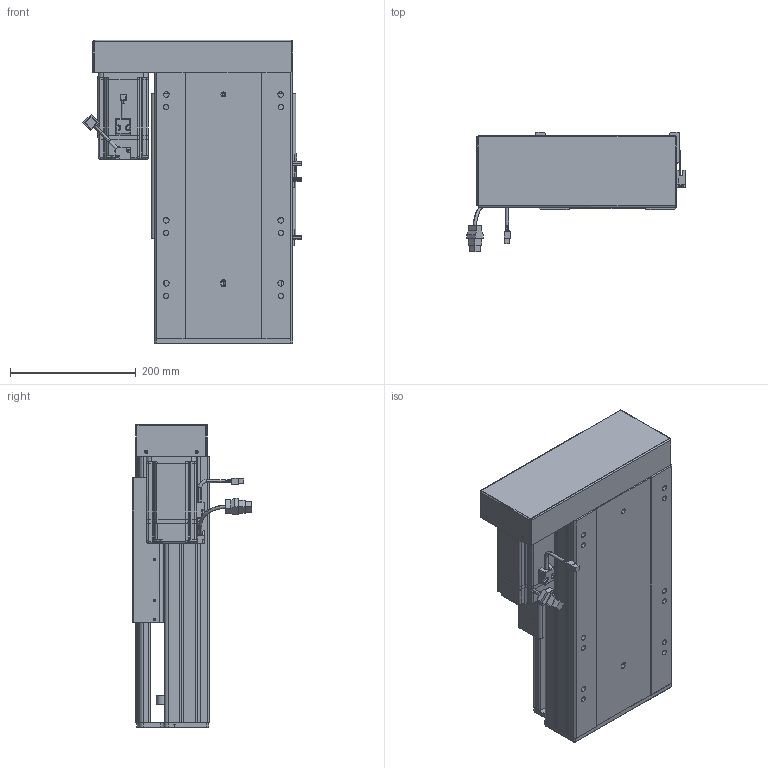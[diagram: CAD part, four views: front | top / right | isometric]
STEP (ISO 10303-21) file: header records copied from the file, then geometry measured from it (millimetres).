
FILE_DESCRIPTION (( 'STEP AP203' ), '1' );
FILE_NAME ('RY220-L2525-300-LK.SLDASM_100.step', '2022-07-04T01:46:12', ( '' ), ( '' ), 'SwSTEP 2.0', 'SolidWorks 2016', '' );
FILE_SCHEMA (( 'CONFIG_CONTROL_DESIGN' ));
Length unit declared in the file: millimetre
Products named in the file (12): 覜茼ん672; 滅袉蝶18-15; RY220-300-蛌殏奻裔啣_100; RY220綴裔啣; RY220蛌殏菁釱-300_100; 滅袉蝶18-10; RY220左右折电机安装板; RY220-L2525-300-LK.SLDASM_100; RY220酘衵殏萇儂欶; RY220-俋离672覜茼んえ; 怢湛750W_ECMA-CX0807ES; RY220半封闭25-32螺母铝滑块
Assembly tree (15 placements, depth 2):
  RY220-L2525-300-LK.SLDASM_100
    RY220蛌殏菁釱-300_100
    RY220-300-蛌殏奻裔啣_100
    怢湛750W_ECMA-CX0807ES
    滅袉蝶18-10  x2
    RY220-俋离672覜茼んえ
    覜茼ん672  x3
    RY220綴裔啣
    RY220半封闭25-32螺母铝滑块
    滅袉蝶18-15  x2
    RY220左右折电机安装板
    RY220酘衵殏萇儂欶
Bounding box: 347.44 x 189.27 x 482 mm (x, y, z)
Volume: 5735355.1 mm3; surface area: 1478824.6 mm2
Topology: 16 solids, 16 shells, 1963 faces, 5408 edges, 3457 vertices
Faces by surface type: plane 896, cylinder 843, cone 154, bspline 44, sphere 16, torus 10
Entity records: 64733 total; most frequent: CARTESIAN_POINT 19043, ORIENTED_EDGE 9536, DIRECTION 8788, EDGE_CURVE 4768, VERTEX_POINT 3113, AXIS2_PLACEMENT_3D 3029, VECTOR 2730, LINE 2730
